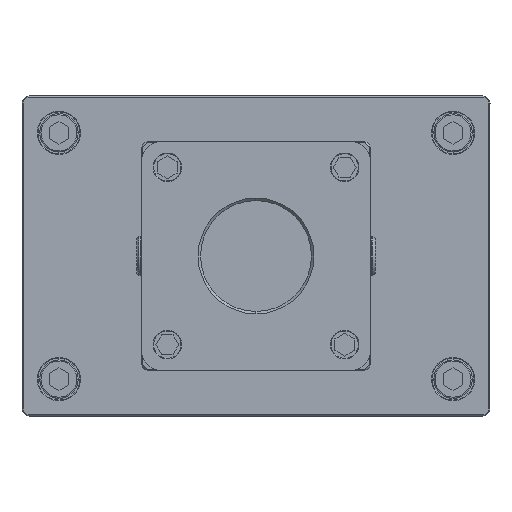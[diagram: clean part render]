
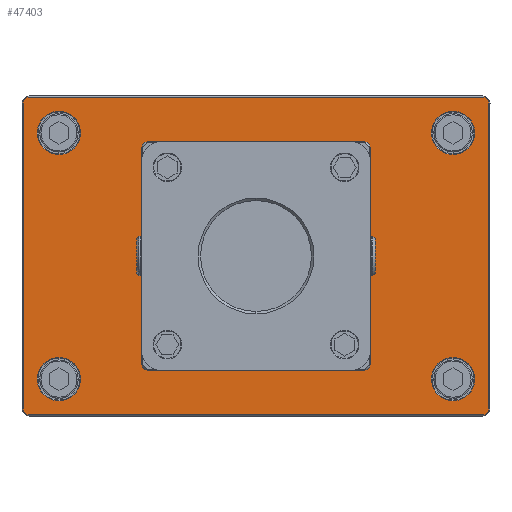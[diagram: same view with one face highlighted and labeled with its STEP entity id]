
A CAD part, front view. The second image highlights one B-rep face of the part: STEP entity #47403.
In plain terms, the highlighted planar face has unit normal (0, -1, 0) as drawn and (0, 1, 0) by its records, which use the part's own axes.
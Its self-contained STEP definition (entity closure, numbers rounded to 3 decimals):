
#45855=CARTESIAN_POINT('',(0.,9.,0.));
#45856=DIRECTION('',(0.,-1.,0.));
#45857=DIRECTION('',(1.,0.,0.));
#45858=AXIS2_PLACEMENT_3D('',#45855,#45856,#45857);
#45860=CARTESIAN_POINT('',(0.,9.,0.));
#45861=DIRECTION('',(0.,-1.,0.));
#45862=DIRECTION('',(-1.,0.,0.));
#45863=AXIS2_PLACEMENT_3D('',#45860,#45861,#45862);
#45865=CARTESIAN_POINT('',(-92.,9.,-62.));
#45866=DIRECTION('',(0.,1.,0.));
#45867=DIRECTION('',(0.,0.,-1.));
#45868=AXIS2_PLACEMENT_3D('',#45865,#45866,#45867);
#45870=DIRECTION('',(-1.,0.,0.));
#45871=VECTOR('',#45870,184.);
#45872=CARTESIAN_POINT('',(92.,9.,
-64.5));
#45873=LINE('',#45872,#45871);
#45874=CARTESIAN_POINT('',(92.,9.,-62.));
#45875=DIRECTION('',(0.,1.,0.));
#45876=DIRECTION('',(1.,0.,0.));
#45877=AXIS2_PLACEMENT_3D('',#45874,#45875,#45876);
#45879=DIRECTION('',(0.,0.,-1.));
#45880=VECTOR('',#45879,124.);
#45881=CARTESIAN_POINT('',(94.5,9.,62.));
#45882=LINE('',#45881,#45880);
#45883=CARTESIAN_POINT('',(92.,9.,62.));
#45884=DIRECTION('',(0.,1.,0.));
#45885=DIRECTION('',(0.,0.,1.));
#45886=AXIS2_PLACEMENT_3D('',#45883,#45884,#45885);
#45888=DIRECTION('',(1.,0.,0.));
#45889=VECTOR('',#45888,184.);
#45890=CARTESIAN_POINT('',(-92.,9.,
64.5));
#45891=LINE('',#45890,#45889);
#45892=CARTESIAN_POINT('',(-92.,9.,62.));
#45893=DIRECTION('',(0.,1.,0.));
#45894=DIRECTION('',(-1.,0.,0.));
#45895=AXIS2_PLACEMENT_3D('',#45892,#45893,#45894);
#45897=DIRECTION('',(0.,0.,1.));
#45898=VECTOR('',#45897,124.);
#45899=CARTESIAN_POINT('',(-94.5,9.,
-62.));
#45900=LINE('',#45899,#45898);
#45901=CARTESIAN_POINT('',(80.,9.,50.));
#45902=DIRECTION('',(0.,-1.,0.));
#45903=DIRECTION('',(1.,0.,0.));
#45904=AXIS2_PLACEMENT_3D('',#45901,#45902,#45903);
#45906=CARTESIAN_POINT('',(80.,9.,50.));
#45907=DIRECTION('',(0.,-1.,0.));
#45908=DIRECTION('',(-1.,0.,0.));
#45909=AXIS2_PLACEMENT_3D('',#45906,#45907,#45908);
#45911=CARTESIAN_POINT('',(-80.,9.,50.));
#45912=DIRECTION('',(0.,-1.,0.));
#45913=DIRECTION('',(1.,0.,0.));
#45914=AXIS2_PLACEMENT_3D('',#45911,#45912,#45913);
#45916=CARTESIAN_POINT('',(-80.,9.,50.));
#45917=DIRECTION('',(0.,-1.,0.));
#45918=DIRECTION('',(-1.,0.,0.));
#45919=AXIS2_PLACEMENT_3D('',#45916,#45917,#45918);
#45921=CARTESIAN_POINT('',(80.,9.,-50.));
#45922=DIRECTION('',(0.,-1.,0.));
#45923=DIRECTION('',(1.,0.,0.));
#45924=AXIS2_PLACEMENT_3D('',#45921,#45922,#45923);
#45926=CARTESIAN_POINT('',(80.,9.,-50.));
#45927=DIRECTION('',(0.,-1.,0.));
#45928=DIRECTION('',(-1.,0.,0.));
#45929=AXIS2_PLACEMENT_3D('',#45926,#45927,#45928);
#45931=CARTESIAN_POINT('',(-80.,9.,-50.));
#45932=DIRECTION('',(0.,-1.,0.));
#45933=DIRECTION('',(1.,0.,0.));
#45934=AXIS2_PLACEMENT_3D('',#45931,#45932,#45933);
#45936=CARTESIAN_POINT('',(-80.,9.,-50.));
#45937=DIRECTION('',(0.,-1.,0.));
#45938=DIRECTION('',(-1.,0.,0.));
#45939=AXIS2_PLACEMENT_3D('',#45936,#45937,#45938);
#45941=CARTESIAN_POINT('',(-36.,9.,-36.));
#45942=DIRECTION('',(0.,1.,0.));
#45943=DIRECTION('',(1.,0.,0.));
#45944=AXIS2_PLACEMENT_3D('',#45941,#45942,#45943);
#45946=CARTESIAN_POINT('',(-36.,9.,-36.));
#45947=DIRECTION('',(0.,1.,0.));
#45948=DIRECTION('',(-1.,0.,0.));
#45949=AXIS2_PLACEMENT_3D('',#45946,#45947,#45948);
#45951=CARTESIAN_POINT('',(-36.,9.,36.));
#45952=DIRECTION('',(0.,1.,0.));
#45953=DIRECTION('',(0.,0.,-1.));
#45954=AXIS2_PLACEMENT_3D('',#45951,#45952,#45953);
#45956=CARTESIAN_POINT('',(-36.,9.,36.));
#45957=DIRECTION('',(0.,1.,0.));
#45958=DIRECTION('',(0.,0.,1.));
#45959=AXIS2_PLACEMENT_3D('',#45956,#45957,#45958);
#45961=CARTESIAN_POINT('',(36.,9.,36.));
#45962=DIRECTION('',(0.,1.,0.));
#45963=DIRECTION('',(-1.,0.,0.));
#45964=AXIS2_PLACEMENT_3D('',#45961,#45962,#45963);
#45966=CARTESIAN_POINT('',(36.,9.,36.));
#45967=DIRECTION('',(0.,1.,0.));
#45968=DIRECTION('',(1.,0.,0.));
#45969=AXIS2_PLACEMENT_3D('',#45966,#45967,#45968);
#45971=CARTESIAN_POINT('',(36.,9.,-36.));
#45972=DIRECTION('',(0.,1.,0.));
#45973=DIRECTION('',(0.,0.,1.));
#45974=AXIS2_PLACEMENT_3D('',#45971,#45972,#45973);
#45976=CARTESIAN_POINT('',(36.,9.,-36.));
#45977=DIRECTION('',(0.,1.,0.));
#45978=DIRECTION('',(0.,0.,-1.));
#45979=AXIS2_PLACEMENT_3D('',#45976,#45977,#45978);
#46887=CARTESIAN_POINT('',(38.,9.,0.));
#46888=CARTESIAN_POINT('',(-38.,9.,0.));
#46889=VERTEX_POINT('',#46887);
#46890=VERTEX_POINT('',#46888);
#46935=CARTESIAN_POINT('',(-92.,9.,-64.5));
#46936=CARTESIAN_POINT('',(-94.5,9.,-62.));
#46937=VERTEX_POINT('',#46935);
#46938=VERTEX_POINT('',#46936);
#46943=CARTESIAN_POINT('',(-94.5,9.,
62.));
#46944=VERTEX_POINT('',#46943);
#46947=CARTESIAN_POINT('',(-92.,9.,64.5));
#46948=VERTEX_POINT('',#46947);
#46951=CARTESIAN_POINT('',(92.,9.,64.5));
#46952=VERTEX_POINT('',#46951);
#46955=CARTESIAN_POINT('',(94.5,9.,62.));
#46956=VERTEX_POINT('',#46955);
#46959=CARTESIAN_POINT('',(94.5,9.,
-62.));
#46960=VERTEX_POINT('',#46959);
#46963=CARTESIAN_POINT('',(92.,9.,-64.5));
#46964=VERTEX_POINT('',#46963);
#46983=CARTESIAN_POINT('',(88.8,9.,50.));
#46984=CARTESIAN_POINT('',(71.2,9.,50.));
#46985=VERTEX_POINT('',#46983);
#46986=VERTEX_POINT('',#46984);
#47007=CARTESIAN_POINT('',(-71.2,9.,50.));
#47008=CARTESIAN_POINT('',(-88.8,9.,50.));
#47009=VERTEX_POINT('',#47007);
#47010=VERTEX_POINT('',#47008);
#47023=CARTESIAN_POINT('',(88.8,9.,-50.));
#47024=CARTESIAN_POINT('',(71.2,9.,-50.));
#47025=VERTEX_POINT('',#47023);
#47026=VERTEX_POINT('',#47024);
#47031=CARTESIAN_POINT('',(-71.2,9.,-50.));
#47032=CARTESIAN_POINT('',(-88.8,9.,-50.));
#47033=VERTEX_POINT('',#47031);
#47034=VERTEX_POINT('',#47032);
#47131=CARTESIAN_POINT('',(-31.,9.,-36.));
#47132=CARTESIAN_POINT('',(-41.,9.,-36.));
#47133=VERTEX_POINT('',#47131);
#47134=VERTEX_POINT('',#47132);
#47139=CARTESIAN_POINT('',(-36.,9.,31.));
#47140=CARTESIAN_POINT('',(-36.,9.,41.));
#47141=VERTEX_POINT('',#47139);
#47142=VERTEX_POINT('',#47140);
#47147=CARTESIAN_POINT('',(31.,9.,36.));
#47148=CARTESIAN_POINT('',(41.,9.,36.));
#47149=VERTEX_POINT('',#47147);
#47150=VERTEX_POINT('',#47148);
#47155=CARTESIAN_POINT('',(36.,9.,-31.));
#47156=CARTESIAN_POINT('',(36.,9.,-41.));
#47157=VERTEX_POINT('',#47155);
#47158=VERTEX_POINT('',#47156);
#47327=CARTESIAN_POINT('',(0.,9.,0.));
#47328=DIRECTION('',(0.,1.,0.));
#47329=DIRECTION('',(1.,0.,0.));
#47330=AXIS2_PLACEMENT_3D('',#47327,#47328,#47329);
#47331=PLANE('',#47330);
#47333=ORIENTED_EDGE('',*,*,#47332,.F.);
#47335=ORIENTED_EDGE('',*,*,#47334,.F.);
#47337=ORIENTED_EDGE('',*,*,#47336,.F.);
#47339=ORIENTED_EDGE('',*,*,#47338,.F.);
#47341=ORIENTED_EDGE('',*,*,#47340,.F.);
#47343=ORIENTED_EDGE('',*,*,#47342,.F.);
#47345=ORIENTED_EDGE('',*,*,#47344,.F.);
#47347=ORIENTED_EDGE('',*,*,#47346,.F.);
#47348=EDGE_LOOP('',(#47333,#47335,#47337,#47339,#47341,#47343,#47345,#47347));
#47349=FACE_OUTER_BOUND('',#47348,.F.);
#47351=ORIENTED_EDGE('',*,*,#47350,.F.);
#47352=ORIENTED_EDGE('',*,*,#47317,.F.);
#47353=EDGE_LOOP('',(#47351,#47352));
#47354=FACE_BOUND('',#47353,.F.);
#47356=ORIENTED_EDGE('',*,*,#47355,.F.);
#47358=ORIENTED_EDGE('',*,*,#47357,.F.);
#47359=EDGE_LOOP('',(#47356,#47358));
#47360=FACE_BOUND('',#47359,.F.);
#47362=ORIENTED_EDGE('',*,*,#47361,.F.);
#47364=ORIENTED_EDGE('',*,*,#47363,.F.);
#47365=EDGE_LOOP('',(#47362,#47364));
#47366=FACE_BOUND('',#47365,.F.);
#47368=ORIENTED_EDGE('',*,*,#47367,.F.);
#47370=ORIENTED_EDGE('',*,*,#47369,.F.);
#47371=EDGE_LOOP('',(#47368,#47370));
#47372=FACE_BOUND('',#47371,.F.);
#47374=ORIENTED_EDGE('',*,*,#47373,.F.);
#47376=ORIENTED_EDGE('',*,*,#47375,.F.);
#47377=EDGE_LOOP('',(#47374,#47376));
#47378=FACE_BOUND('',#47377,.F.);
#47380=ORIENTED_EDGE('',*,*,#47379,.T.);
#47382=ORIENTED_EDGE('',*,*,#47381,.T.);
#47383=EDGE_LOOP('',(#47380,#47382));
#47384=FACE_BOUND('',#47383,.F.);
#47386=ORIENTED_EDGE('',*,*,#47385,.T.);
#47388=ORIENTED_EDGE('',*,*,#47387,.T.);
#47389=EDGE_LOOP('',(#47386,#47388));
#47390=FACE_BOUND('',#47389,.F.);
#47392=ORIENTED_EDGE('',*,*,#47391,.T.);
#47394=ORIENTED_EDGE('',*,*,#47393,.T.);
#47395=EDGE_LOOP('',(#47392,#47394));
#47396=FACE_BOUND('',#47395,.F.);
#47398=ORIENTED_EDGE('',*,*,#47397,.T.);
#47400=ORIENTED_EDGE('',*,*,#47399,.T.);
#47401=EDGE_LOOP('',(#47398,#47400));
#47402=FACE_BOUND('',#47401,.F.);
#47403=ADVANCED_FACE('',(#47349,#47354,#47360,#47366,#47372,#47378,#47384,
#47390,#47396,#47402),#47331,.T.);
#45859=CIRCLE('',#45858,38.);
#45864=CIRCLE('',#45863,38.);
#45869=CIRCLE('',#45868,2.5);
#45878=CIRCLE('',#45877,2.5);
#45887=CIRCLE('',#45886,2.5);
#45896=CIRCLE('',#45895,2.5);
#45905=CIRCLE('',#45904,8.8);
#45910=CIRCLE('',#45909,8.8);
#45915=CIRCLE('',#45914,8.8);
#45920=CIRCLE('',#45919,8.8);
#45925=CIRCLE('',#45924,8.8);
#45930=CIRCLE('',#45929,8.8);
#45935=CIRCLE('',#45934,8.8);
#45940=CIRCLE('',#45939,8.8);
#45945=CIRCLE('',#45944,5.);
#45950=CIRCLE('',#45949,5.);
#45955=CIRCLE('',#45954,5.);
#45960=CIRCLE('',#45959,5.);
#45965=CIRCLE('',#45964,5.);
#45970=CIRCLE('',#45969,5.);
#45975=CIRCLE('',#45974,5.);
#45980=CIRCLE('',#45979,5.);
#47317=EDGE_CURVE('',#46890,#46889,#45864,.T.);
#47332=EDGE_CURVE('',#46937,#46938,#45869,.T.);
#47334=EDGE_CURVE('',#46964,#46937,#45873,.T.);
#47336=EDGE_CURVE('',#46960,#46964,#45878,.T.);
#47338=EDGE_CURVE('',#46956,#46960,#45882,.T.);
#47340=EDGE_CURVE('',#46952,#46956,#45887,.T.);
#47342=EDGE_CURVE('',#46948,#46952,#45891,.T.);
#47344=EDGE_CURVE('',#46944,#46948,#45896,.T.);
#47346=EDGE_CURVE('',#46938,#46944,#45900,.T.);
#47350=EDGE_CURVE('',#46889,#46890,#45859,.T.);
#47355=EDGE_CURVE('',#46985,#46986,#45905,.T.);
#47357=EDGE_CURVE('',#46986,#46985,#45910,.T.);
#47361=EDGE_CURVE('',#47009,#47010,#45915,.T.);
#47363=EDGE_CURVE('',#47010,#47009,#45920,.T.);
#47367=EDGE_CURVE('',#47025,#47026,#45925,.T.);
#47369=EDGE_CURVE('',#47026,#47025,#45930,.T.);
#47373=EDGE_CURVE('',#47033,#47034,#45935,.T.);
#47375=EDGE_CURVE('',#47034,#47033,#45940,.T.);
#47379=EDGE_CURVE('',#47133,#47134,#45945,.T.);
#47381=EDGE_CURVE('',#47134,#47133,#45950,.T.);
#47385=EDGE_CURVE('',#47141,#47142,#45955,.T.);
#47387=EDGE_CURVE('',#47142,#47141,#45960,.T.);
#47391=EDGE_CURVE('',#47149,#47150,#45965,.T.);
#47393=EDGE_CURVE('',#47150,#47149,#45970,.T.);
#47397=EDGE_CURVE('',#47157,#47158,#45975,.T.);
#47399=EDGE_CURVE('',#47158,#47157,#45980,.T.);
